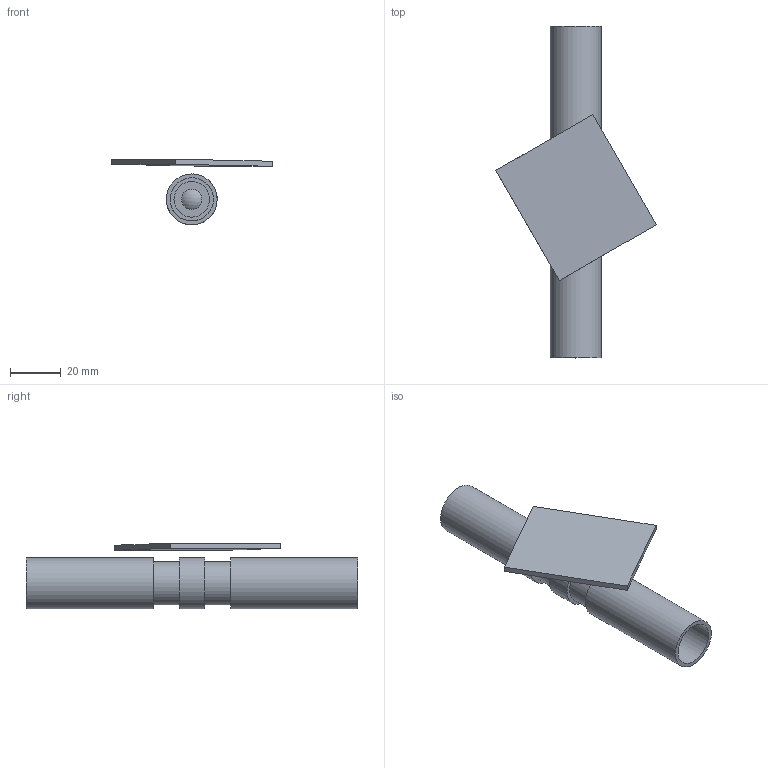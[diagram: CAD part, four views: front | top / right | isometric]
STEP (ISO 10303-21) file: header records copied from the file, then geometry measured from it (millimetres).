
FILE_DESCRIPTION(/* description */ ('STEP AP203'),/* implementation_level */ '2;1');
FILE_NAME(/* name */ 'C:\Users\user\Documents\Inventor\Home Ventilator CPAP\Valve NEW.stp',/* time_stamp */ '2020-04-03T13:38:17+02:00',/* author */ ('user'),/* organization */ (''),/* preprocessor_version */ 'ST-DEVELOPER v16.5',/* originating_system */ 'Autodesk Inventor 2017',/* authorisation */ '');
FILE_SCHEMA (('AUTOMOTIVE_DESIGN { 1 0 10303 214 3 1 1 }'));
Length unit declared in the file: millimetre
Products named in the file (8): Valve NEW; ball; bracket; rubber seal; Syringe; Tube; interrupt; Ring valve
Assembly tree (8 placements, depth 2):
  Valve NEW
    ball
    bracket
    rubber seal
    Syringe
    Tube  x2
    interrupt
    Ring valve
Bounding box: 63.13 x 130.54 x 25.79 mm (x, y, z)
Volume: 18819.8 mm3; surface area: 24054.8 mm2
Topology: 8 solids, 8 shells, 37 faces, 66 edges, 44 vertices
Faces by surface type: plane 25, cylinder 11, sphere 1
Full cylindrical faces by diameter (mm): 8 x2, 14 x2, 17 x4, 20 x3
Entity records: 1032 total; most frequent: DIRECTION 166, CARTESIAN_POINT 138, ORIENTED_EDGE 98, AXIS2_PLACEMENT_3D 68, EDGE_LOOP 51, EDGE_CURVE 49, VERTEX_POINT 40, FACE_OUTER_BOUND 33
